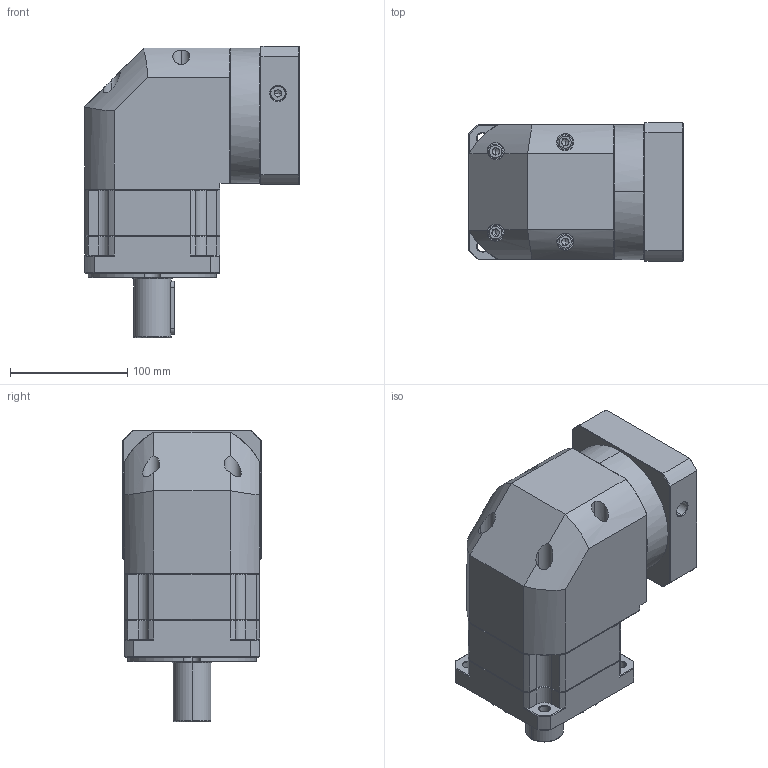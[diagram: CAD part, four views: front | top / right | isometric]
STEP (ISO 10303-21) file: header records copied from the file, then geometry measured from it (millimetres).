
FILE_DESCRIPTION (( 'STEP AP214' ), '1' );
FILE_NAME ('ZBR115A-D32-L1-P2-19-95-115-M6.step', '2023-08-26T12:36:00', ( '' ), ( '' ), 'SwSTEP 2.0', 'SolidWorks 2016', '' );
FILE_SCHEMA (( 'AUTOMOTIVE_DESIGN' ));
Length unit declared in the file: millimetre
Products named in the file (1): ZBR115A-D32-L1-P2-19-95-115-M6
Bounding box: 182.4 x 118 x 248 mm (x, y, z)
Volume: 2879171.8 mm3; surface area: 239254.5 mm2
Topology: 6 solids, 6 shells, 2368 faces, 6202 edges, 3937 vertices
Faces by surface type: plane 1138, bspline 428, cylinder 424, cone 370, torus 8
Entity records: 128714 total; most frequent: CARTESIAN_POINT 47962, ORIENTED_EDGE 12344, DIRECTION 9746, EDGE_CURVE 6172, LINE 3972, VECTOR 3972, VERTEX_POINT 3937, AXIS2_PLACEMENT_3D 2887
